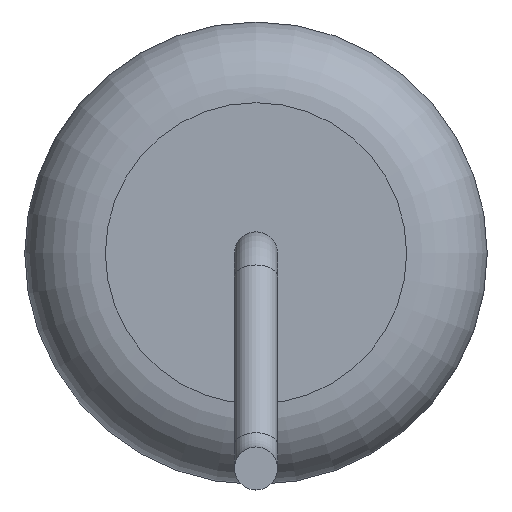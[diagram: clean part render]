
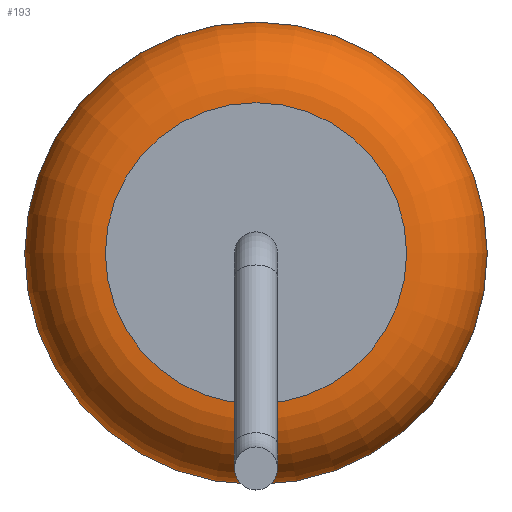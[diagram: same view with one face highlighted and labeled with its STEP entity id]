
A CAD part, left-side view. The second image highlights one B-rep face of the part: STEP entity #193.
In plain terms, the highlighted toroidal (fillet/blend) face has major radius 2.8 mm and minor radius 1.5 mm.
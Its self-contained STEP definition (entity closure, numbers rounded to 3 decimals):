
#193=ADVANCED_FACE('',(#398,#400),#402,.T.);
#398=FACE_OUTER_BOUND('',#399,.T.);
#399=EDGE_LOOP('',(#497));
#400=FACE_OUTER_BOUND('',#401,.T.);
#401=EDGE_LOOP('',(#498));
#402=TOROIDAL_SURFACE('',#403,2.8,1.5);
#403=AXIS2_PLACEMENT_3D('',#404,#405,#406);
#404=CARTESIAN_POINT('',(-7.75,0.,0.));
#405=DIRECTION('',(-1.,0.,0.));
#406=DIRECTION('',(0.,0.,1.));
#497=ORIENTED_EDGE('',*,*,#526,.T.);
#498=ORIENTED_EDGE('',*,*,#527,.F.);
#526=EDGE_CURVE('',#562,#562,#563,.T.);
#527=EDGE_CURVE('',#564,#564,#565,.T.);
#562=VERTEX_POINT('',#648);
#563=CIRCLE('',#649,4.3);
#564=VERTEX_POINT('',#653);
#565=CIRCLE('',#654,2.8);
#648=CARTESIAN_POINT('',(-7.75,0.,4.3));
#649=AXIS2_PLACEMENT_3D('',#650,#651,#652);
#650=CARTESIAN_POINT('',(-7.75,0.,0.));
#651=DIRECTION('',(-1.,0.,0.));
#652=DIRECTION('',(0.,0.,1.));
#653=CARTESIAN_POINT('',(-9.25,0.,2.8));
#654=AXIS2_PLACEMENT_3D('',#655,#656,#657);
#655=CARTESIAN_POINT('',(-9.25,0.,0.));
#656=DIRECTION('',(-1.,0.,0.));
#657=DIRECTION('',(0.,0.,1.));
